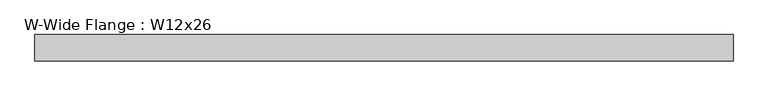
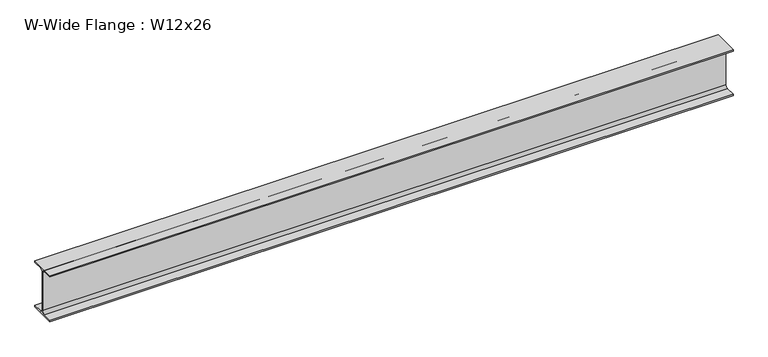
"""IFC4 building model written with IfcOpenShell, lengths in millimetres: beam geometry, W-Wide Flange : W12x26."""

from ifc_helpers import new_model, si_unit, point, frame, frame_2d, origin, place, context, project, spatial, polyline, circle_curve, trimmed, segment, composite_curve, outline, extrude, source, transform, mapped, element, save


def w_wide_flange_w12x26_d3b26f5c(model_context):
    return source(origin(), model_context, "Body", "SweptSolid", [
        extrude(outline(composite_curve([segment(polyline([(82.423, -145.288), (82.423, -154.94), (-82.423, -154.94), (-82.423, -145.288), (-20.2565, -145.288)]), True, "CONTINUOUS"), segment(trimmed(circle_curve(frame_2d((-20.2565, -127.9525)), 17.3355), [point((-20.2565, -145.288))], [point((-2.921, -127.9525))], True, "CARTESIAN"), True, "CONTINUOUS"), segment(polyline([(-2.921, -127.9525), (-2.921, 127.9525)]), True, "CONTINUOUS"), segment(trimmed(circle_curve(frame_2d((-20.2565, 127.9525)), 17.3355), [point((-2.921, 127.9525))], [point((-20.2565, 145.288))], True, "CARTESIAN"), True, "CONTINUOUS"), segment(polyline([(-20.2565, 145.288), (-82.423, 145.288), (-82.423, 154.94), (82.423, 154.94), (82.423, 145.288), (20.2565, 145.288)]), True, "CONTINUOUS"), segment(trimmed(circle_curve(frame_2d((20.2565, 127.9525)), 17.3355), [point((20.2565, 145.288))], [point((2.921, 127.9525))], True, "CARTESIAN"), True, "CONTINUOUS"), segment(polyline([(2.921, 127.9525), (2.921, -127.9525)]), True, "CONTINUOUS"), segment(trimmed(circle_curve(frame_2d((20.2565, -127.9525)), 17.3355), [point((2.921, -127.9525))], [point((20.2565, -145.288))], True, "CARTESIAN"), True, "CONTINUOUS"), segment(polyline([(20.2565, -145.288), (82.423, -145.288)]), True, "CONTINUOUS")], self_intersect=False)), frame((-2173.097, 0.0, 0.0), z_axis=(1.0, 0.0, 0.0), x_axis=(0.0, 1.0, 0.0)), (0.0, 0.0, 1.0), 4346.194),
    ])


if __name__ == "__main__":
    model = new_model("IFC4")
    model_context = context("Model", 3, world=origin())
    ifc_project = project(units=[si_unit("LENGTHUNIT", "METRE", prefix="MILLI")], contexts=[model_context])
    site = spatial("IfcSite", under=ifc_project)
    building = spatial("IfcBuilding", under=site)
    placement = place(None, origin())
    w_wide_flange_w12x26_shape = w_wide_flange_w12x26_d3b26f5c(model_context)
    element("IfcBeam", 1, ObjectType="W-Wide Flange : W12x26", at=placement, inside=building, context=model_context, shape_type="MappedRepresentation", body=[
        mapped(w_wide_flange_w12x26_shape, transform((0.0, 0.0, 0.0), x_axis=(1.0, 0.0, 0.0), y_axis=(0.0, 1.0, 0.0), z_axis=(0.0, 0.0, 1.0))),
    ])
    save(model, "model.ifc")
